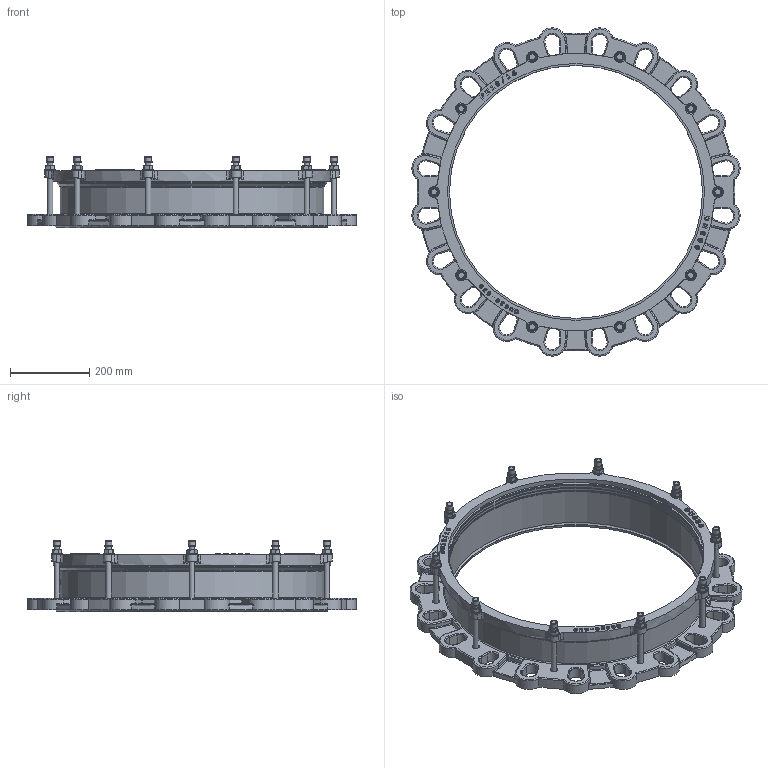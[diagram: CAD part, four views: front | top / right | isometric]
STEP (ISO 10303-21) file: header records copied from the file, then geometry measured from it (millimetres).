
FILE_DESCRIPTION(('STEP AP203'), '1');
FILE_NAME('Ôëàíöåâûé àäàïòåð', '', ('UNSPECIFIED'), ('UNSPECIFIED'), 'C3D Converter', 'C3D Toolkit', '');
FILE_SCHEMA(('CONFIG_CONTROL_DESIGN'));
Length unit declared in the file: millimetre
Assembly tree (43 placements, depth 2):
  (unnamed)
    (unnamed)
    (unnamed)  x10
    (unnamed)  x10
    (unnamed)  x10
    (unnamed)  x10
    (unnamed)
    (unnamed)
Bounding box: 830.43 x 830.44 x 181.4 mm (x, y, z)
Volume: 7834213.2 mm3; surface area: 1563262.7 mm2
Topology: 43 solids, 43 shells, 1880 faces, 4740 edges, 2865 vertices
Faces by surface type: plane 546, cylinder 507, extrusion 432, torus 181, bspline 80, cone 74, sphere 60
Full cylindrical faces by diameter (mm): 14 x30, 15 x10, 16 x20, 16.173 x1, 16.8 x10, 19.6 x10, 28 x10, 640 x5, 645 x3, 650 x2, 658 x1, 666 x2, 682 x1, 686 x2, 702 x1
Entity records: 69205 total; most frequent: CARTESIAN_POINT 28439, ORIENTED_EDGE 7588, DIRECTION 6323, EDGE_CURVE 3794, VERTEX_POINT 2386, AXIS2_PLACEMENT_3D 2195, VECTOR 1933, EDGE_LOOP 1744
